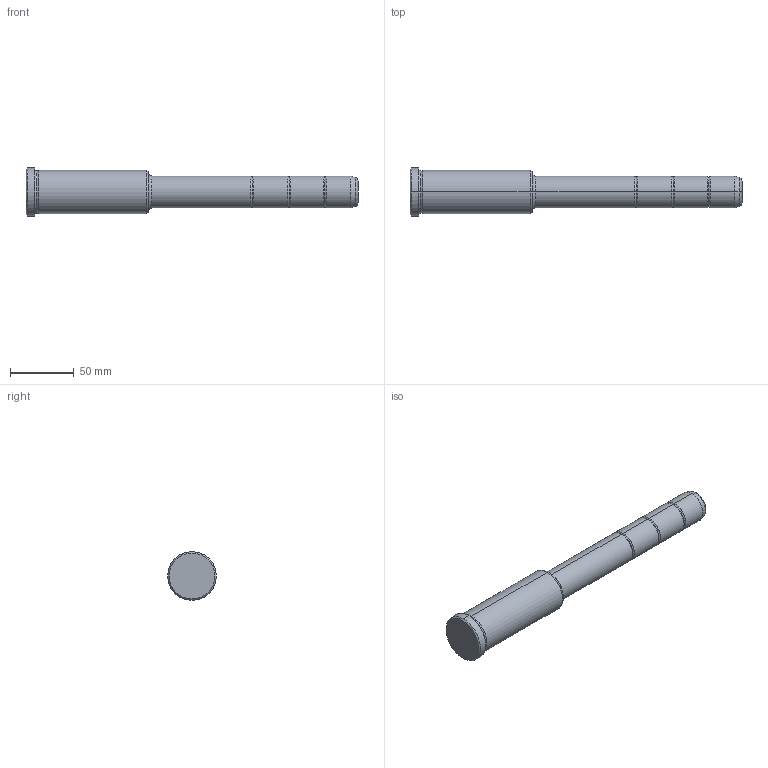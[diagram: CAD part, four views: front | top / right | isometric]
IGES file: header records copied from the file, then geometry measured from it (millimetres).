
Start section: START RECORD GO HERE.
Global section: file name: 351-25X96X260.igs; native system: DASSAULT SYSTEMES CATIA V5 R20 - www.3ds.com; preprocessor: CATIA Version 5 Release 20 ; author: Utente; organization: NB04-ASUS; date: 20210907.135743; units: millimetre
Bounding box: 260 x 38 x 38 mm (x, y, z)
Surface area: 25232.1 mm2 (no closed solid volume)
Topology: 0 solids, 0 shells, 42 faces, 236 edges, 236 vertices
Faces by surface type: revolution 38, plane 4
